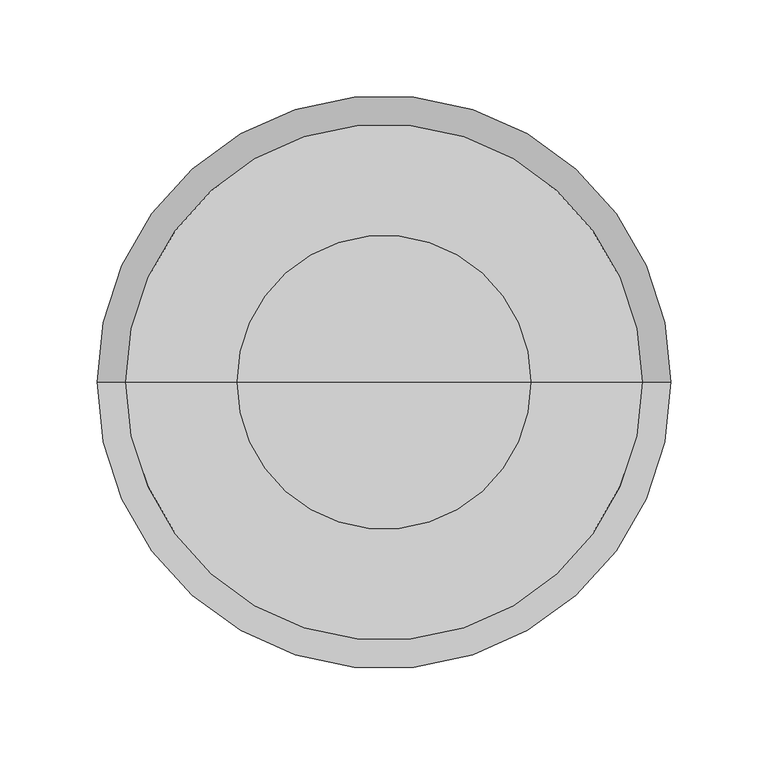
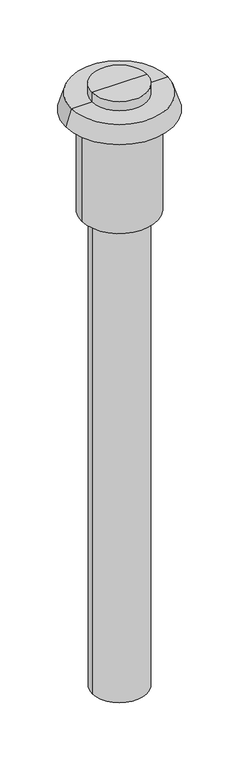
"""IFC4 building model written with IfcOpenShell, lengths in millimetres: air terminal geometry, NLRS_57_AIR_WPB_roof ventilation terminals_M&G : EPS Black, ø150 - L=1750mm."""

import ifcopenshell
import ifcopenshell.guid

model = None  # the IFC model being written
_history = None  # IfcOwnerHistory: only IFC2X3 demands one
_inside = {}  # id of a spatial element -> (the spatial element, [elements in it])
_under = {}  # id of a project, library or spatial element -> (it, [spatial elements below it])
_declared = {}  # id of a project -> (the project, [libraries it declares])
_typed = {}  # id of a type object -> (the type object, [elements of that type])
_made_of = {}  # id of a material, layer set ... -> (it, [elements and type objects made of it])


def new_model(schema):
    """Start an empty IFC model of exactly this schema.

    Asked for "IFC4X3", IfcOpenShell would pick the latest addendum, in which some entities
    have other attributes; the version numbers below select the first issue.
    IFC2X3 requires an IfcOwnerHistory on every rooted entity: one is made here for all.
    """
    global model, _history
    if schema == "IFC4X3":
        model = ifcopenshell.file(schema_version=(4, 3, 0, 0))
    else:
        model = ifcopenshell.file(schema=schema)
    _inside.clear()
    _under.clear()
    _declared.clear()
    _typed.clear()
    _made_of.clear()
    _history = None
    if model.schema == "IFC2X3":
        org = make("IfcOrganization", Name="unknown")
        user = make(
            "IfcPersonAndOrganization",
            ThePerson=make("IfcPerson", FamilyName="unknown"),
            TheOrganization=org,
        )
        app = make(
            "IfcApplication",
            ApplicationDeveloper=org,
            Version="unknown",
            ApplicationFullName="unknown",
            ApplicationIdentifier="unknown",
        )
        _history = make(
            "IfcOwnerHistory",
            OwningUser=user,
            OwningApplication=app,
            ChangeAction="ADDED",
            CreationDate=0,
        )
    return model


def make(cls, **values):
    """One entity of the class cls with the attributes given. An attribute that is None is left unset."""
    return model.create_entity(
        cls, **{name: value for name, value in values.items() if value is not None}
    )


def rooted(cls, **values):
    """An entity with a GlobalId (a new one), such as an element, a storey or a relation."""
    return make(cls, GlobalId=ifcopenshell.guid.new(), OwnerHistory=_history, **values)


def si_unit(unit_type, name, prefix=None):
    """IfcSIUnit, for example si_unit("LENGTHUNIT", "METRE", prefix="MILLI")."""
    return make("IfcSIUnit", UnitType=unit_type, Prefix=prefix, Name=name)


def assignment(units):
    """IfcUnitAssignment: the units of a project."""
    return None if units is None else make("IfcUnitAssignment", Units=units)


def point(xyz):
    """IfcCartesianPoint."""
    return None if xyz is None else make("IfcCartesianPoint", Coordinates=xyz)


def direction(xyz):
    """IfcDirection."""
    return None if xyz is None else make("IfcDirection", DirectionRatios=xyz)


def frame(location, z_axis=None, x_axis=None):
    """IfcAxis2Placement3D, a coordinate frame: its origin and axes. An axis left out is left unset."""
    return make(
        "IfcAxis2Placement3D",
        Location=point(location),
        Axis=direction(z_axis),
        RefDirection=direction(x_axis),
    )


def origin():
    """The frame at (0, 0, 0) with its axes left unset."""
    return frame((0.0, 0.0, 0.0))


def place(relative_to, where):
    """IfcLocalPlacement: puts the frame where relative to a parent placement (None: the world)."""
    return make(
        "IfcLocalPlacement", PlacementRelTo=relative_to, RelativePlacement=where
    )


def context(
    kind, dimensions, precision=None, world=None, true_north=None, identifier=None
):
    """IfcGeometricRepresentationContext, for example the 3D "Model" context."""
    return make(
        "IfcGeometricRepresentationContext",
        ContextIdentifier=identifier,
        ContextType=kind,
        CoordinateSpaceDimension=dimensions,
        Precision=precision,
        WorldCoordinateSystem=world,
        TrueNorth=true_north,
    )


def project(units=None, contexts=None):
    """IfcProject with its units and contexts."""
    return rooted(
        "IfcProject",
        Name="project",
        RepresentationContexts=contexts,
        UnitsInContext=assignment(units),
    )


def spatial(cls, under=None, at=None, **own):
    """A site, building, storey or space (cls), placed at a placement, below another one or the project."""
    s = rooted(cls, ObjectPlacement=at, **own)
    if under is not None:
        _under.setdefault(under.id(), (under, []))[1].append(s)
    return s


def polyline(points):
    """IfcPolyline through the points."""
    return make("IfcPolyline", Points=[point(p) for p in points])


def circle_curve(where, radius):
    """IfcCircle in the frame where."""
    return make("IfcCircle", Position=where, Radius=radius)


def shape(context_of_items, identifier, shape_type, items):
    """IfcShapeRepresentation: the items that make up one representation, for example the "Body"."""
    return make(
        "IfcShapeRepresentation",
        ContextOfItems=context_of_items,
        RepresentationIdentifier=identifier,
        RepresentationType=shape_type,
        Items=items,
    )


def source(mapping_origin, context_of_items, identifier, shape_type, items):
    """IfcRepresentationMap: a shape defined once, which mapped items show again and again."""
    return make(
        "IfcRepresentationMap",
        MappingOrigin=mapping_origin,
        MappedRepresentation=shape(context_of_items, identifier, shape_type, items),
    )


def transform(
    local_origin,
    x_axis=None,
    y_axis=None,
    z_axis=None,
    scale=None,
    scale2=None,
    scale3=None,
    uniform=True,
):
    """IfcCartesianTransformationOperator3D, or its non-uniform kind. x_axis, y_axis, z_axis: its Axis1, 2, 3."""
    if uniform:
        return make(
            "IfcCartesianTransformationOperator3D",
            Axis1=direction(x_axis),
            Axis2=direction(y_axis),
            LocalOrigin=point(local_origin),
            Scale=scale,
            Axis3=direction(z_axis),
        )
    return make(
        "IfcCartesianTransformationOperator3DnonUniform",
        Axis1=direction(x_axis),
        Axis2=direction(y_axis),
        LocalOrigin=point(local_origin),
        Scale=scale,
        Axis3=direction(z_axis),
        Scale2=scale2,
        Scale3=scale3,
    )


def mapped(mapping_source, mapping_target):
    """IfcMappedItem: shows the shape of a source again, moved by a transform."""
    return make(
        "IfcMappedItem", MappingSource=mapping_source, MappingTarget=mapping_target
    )


def made_of(thing, what):
    """Note that an element or type object is made of a material, layer set ...; save() writes the relation."""
    if what is not None:
        _made_of.setdefault(what.id(), (what, []))[1].append(thing)
    return thing


def element(
    cls,
    number,
    at=None,
    inside=None,
    cuts=None,
    type_object=None,
    material=None,
    context=None,
    identifier="Body",
    shape_type=None,
    held_by="IfcProductDefinitionShape",
    body=None,
    shapes=None,
    **own,
):
    """One element of the class cls, such as IfcWall. Its Tag is "e" and its number.

    at: its placement. inside: the storey or other place that contains it. cuts: it is an
    opening in that element (IfcRelVoidsElement). A single representation is given by context,
    identifier, shape_type and body (its items); several are given by shapes. held_by: the class
    of the entity that holds the representations. save() writes the other relations.
    """
    e = rooted(cls, Tag="e%d" % number, ObjectPlacement=at, **own)
    if body is not None:
        shapes = [shape(context, identifier, shape_type, body)]
    if shapes is not None:
        e.Representation = make(held_by, Representations=shapes)
    if inside is not None:
        _inside.setdefault(inside.id(), (inside, []))[1].append(e)
    if cuts is not None:
        rooted(
            "IfcRelVoidsElement", RelatingBuildingElement=cuts, RelatedOpeningElement=e
        )
    if type_object is not None:
        _typed.setdefault(type_object.id(), (type_object, []))[1].append(e)
    return made_of(e, material)


def aggregate(whole, parts):
    """IfcRelAggregates: a whole, such as a stair, and the parts it consists of."""
    return rooted("IfcRelAggregates", RelatingObject=whole, RelatedObjects=parts)


def save(model, path):
    """Write the relations noted so far, then the file.

    IfcRelAggregates (storeys below a building ...), IfcRelContainedInSpatialStructure (elements
    in a storey), IfcRelDefinesByType, IfcRelAssociatesMaterial and IfcRelDeclares: one each for
    every whole, place, type object, material and project.
    """
    for whole, parts in _under.values():
        aggregate(whole, parts)
    for where, things in _inside.values():
        rooted(
            "IfcRelContainedInSpatialStructure",
            RelatedElements=things,
            RelatingStructure=where,
        )
    for kind, things in _typed.values():
        rooted("IfcRelDefinesByType", RelatedObjects=things, RelatingType=kind)
    for what, things in _made_of.values():
        rooted("IfcRelAssociatesMaterial", RelatedObjects=things, RelatingMaterial=what)
    for by, libraries in _declared.values():
        rooted("IfcRelDeclares", RelatingContext=by, RelatedDefinitions=libraries)
    model.write(path)


def plane_surface(at):
    """IfcPlane: the flat surface through the origin of the frame at, square to its z axis."""
    return make("IfcPlane", Position=at)


def cylinder_surface(at, radius):
    """IfcCylindricalSurface: all points at the distance radius from the z axis of the frame at."""
    return make("IfcCylindricalSurface", Position=at, Radius=radius)


def revolved_surface(curve, axis_point, axis_direction):
    """IfcSurfaceOfRevolution: the curve turned about the line through axis_point along axis_direction."""
    return make(
        "IfcSurfaceOfRevolution",
        SweptCurve=make("IfcArbitraryOpenProfileDef", ProfileType="CURVE", Curve=curve),
        AxisPosition=make("IfcAxis1Placement", Location=point(axis_point), Axis=direction(axis_direction)),
    )


def advanced_brep(points, edges, surfaces, faces):
    """IfcAdvancedBrep: a solid bounded by faces that lie on surfaces and meet in shared edges.

    An edge is (start, end): straight between two places in points (the first is 0);
    or (start, end, curve); or (start, end, curve, False) where it runs against its curve.
    A face is (place in surfaces, loops), or (place, loops, False) where it looks against
    its surface's normal. A loop lists edges by number (the first is 1), with a minus sign
    where the edge is run from its end to its start. The first loop is the outer one.
    """
    corners = [point(p) for p in points]
    vertices = [make("IfcVertexPoint", VertexGeometry=c) for c in corners]
    made = []
    for start, end, *more in edges:
        made.append(
            make(
                "IfcEdgeCurve",
                EdgeStart=vertices[start],
                EdgeEnd=vertices[end],
                EdgeGeometry=more[0] if more else make("IfcPolyline", Points=[corners[start], corners[end]]),
                SameSense=more[1] if len(more) > 1 else True,
            )
        )
    hull = []
    for where, loops, *sense in faces:
        bounds = []
        for j, loop in enumerate(loops):
            ring = [make("IfcOrientedEdge", EdgeElement=made[abs(k) - 1], Orientation=k > 0) for k in loop]
            bounds.append(
                make(
                    "IfcFaceOuterBound" if j == 0 else "IfcFaceBound",
                    Bound=make("IfcEdgeLoop", EdgeList=ring),
                    Orientation=True,
                )
            )
        hull.append(make("IfcAdvancedFace", Bounds=bounds, FaceSurface=surfaces[where], SameSense=sense[0] if sense else True))
    return make("IfcAdvancedBrep", Outer=make("IfcClosedShell", CfsFaces=hull))


def air_terminal_4465b07e(model_context):
    return source(origin(), model_context, "Body", "AdvancedBrep", [
        advanced_brep(
        [(75.7, 0.0, 365.0), (-75.7, 0.0, 365.0), (0.0, 0.0, 365.0), (75.7, 0.0, 338.0), (-75.7, 0.0, 338.0), (0.0, 0.0, 338.0)],
        [
            (0, 1, circle_curve(frame((0.0, 0.0, 365.0), z_axis=(0.0, 0.0, 1.0), x_axis=(-1.0, 0.0, 0.0)), 75.7)),
            (1, 2),
            (2, 0),
            (1, 0, circle_curve(frame((0.0, 0.0, 365.0), z_axis=(0.0, 0.0, 1.0), x_axis=(-1.0, 0.0, 0.0)), 75.7)),
            (3, 4, circle_curve(frame((0.0, 0.0, 338.0), z_axis=(0.0, 0.0, 1.0), x_axis=(-1.0, 0.0, 0.0)), 75.7)),
            (4, 1),
            (0, 3),
            (4, 3, circle_curve(frame((0.0, 0.0, 338.0), z_axis=(0.0, 0.0, 1.0), x_axis=(-1.0, 0.0, 0.0)), 75.7)),
            (5, 4),
            (3, 5),
        ],
        [
            plane_surface(frame((0.0, 0.0, 365.0), z_axis=(0.0, 0.0, 1.0), x_axis=(-1.0, 0.0, 0.0))),
            cylinder_surface(frame((0.0, 0.0, 2068.3150031), z_axis=(0.0, 0.0, -1.0), x_axis=(-1.0, 0.0, 0.0)), 75.7),
            plane_surface(frame((0.0, 0.0, 338.0), z_axis=(0.0, 0.0, -1.0), x_axis=(-1.0, 0.0, 0.0))),
        ],
        [
            (0, [[1, 2, 3]]),
            (0, [[4, -3, -2]]),
            (1, [[5, 6, -1, 7]]),
            (1, [[8, -7, -4, -6]]),
            (2, [[9, -5, 10]]),
            (2, [[-10, -8, -9]]),
        ],
    ),
        advanced_brep(
        [(103.2, 0.0, 290.0), (-103.2, 0.0, 290.0), (0.0, 0.0, 290.0), (103.2, 0.0, 0.0), (-103.2, 0.0, 0.0), (0.0, 0.0, 0.0)],
        [
            (0, 1, circle_curve(frame((0.0, 0.0, 290.0), z_axis=(0.0, 0.0, 1.0), x_axis=(-1.0, 0.0, 0.0)), 103.2)),
            (1, 2),
            (2, 0),
            (1, 0, circle_curve(frame((0.0, 0.0, 290.0), z_axis=(0.0, 0.0, 1.0), x_axis=(-1.0, 0.0, 0.0)), 103.2)),
            (3, 4, circle_curve(frame((0.0, 0.0, 0.0), z_axis=(0.0, 0.0, 1.0), x_axis=(-1.0, 0.0, 0.0)), 103.2)),
            (4, 1),
            (0, 3),
            (4, 3, circle_curve(frame((0.0, 0.0, 0.0), z_axis=(0.0, 0.0, 1.0), x_axis=(-1.0, 0.0, 0.0)), 103.2)),
            (5, 4),
            (3, 5),
        ],
        [
            plane_surface(frame((0.0, 0.0, 290.0), z_axis=(0.0, 0.0, 1.0), x_axis=(-1.0, 0.0, 0.0))),
            cylinder_surface(frame((0.0, 0.0, 2112.3150031), z_axis=(0.0, 0.0, -1.0), x_axis=(-1.0, 0.0, 0.0)), 103.2),
            plane_surface(frame((0.0, 0.0, 0.0), z_axis=(0.0, 0.0, -1.0), x_axis=(-1.0, 0.0, 0.0))),
        ],
        [
            (0, [[1, 2, 3]]),
            (0, [[4, -3, -2]]),
            (1, [[5, 6, -1, 7]]),
            (1, [[8, -7, -4, -6]]),
            (2, [[9, -5, 10]]),
            (2, [[-10, -8, -9]]),
        ],
    ),
        advanced_brep(
        [(133.0, 0.0, 338.0), (-133.0, 0.0, 338.0), (0.0, 0.0, 338.0), (147.75, 0.0, 290.0), (-147.75, 0.0, 290.0), (0.0, 0.0, 290.0)],
        [
            (0, 1, circle_curve(frame((0.0, 0.0, 338.0), z_axis=(0.0, 0.0, 1.0), x_axis=(-1.0, 0.0, 0.0)), 133.0)),
            (1, 2),
            (2, 0),
            (1, 0, circle_curve(frame((0.0, 0.0, 338.0), z_axis=(0.0, 0.0, 1.0), x_axis=(-1.0, 0.0, 0.0)), 133.0)),
            (3, 4, circle_curve(frame((0.0, 0.0, 290.0), z_axis=(0.0, 0.0, 1.0), x_axis=(-1.0, 0.0, 0.0)), 147.75)),
            (4, 1),
            (0, 3),
            (4, 3, circle_curve(frame((0.0, 0.0, 290.0), z_axis=(0.0, 0.0, 1.0), x_axis=(-1.0, 0.0, 0.0)), 147.75)),
            (5, 4),
            (3, 5),
        ],
        [
            plane_surface(frame((0.0, 0.0, 338.0), z_axis=(0.0, 0.0, 1.0), x_axis=(-1.0, 0.0, 0.0))),
            revolved_surface(polyline([(-133.0, 0.0, 338.0), (-147.75, 0.0, 290.0)]), (0.0, 0.0, 2058.3150031), (0.0, 0.0, -1.0)),
            plane_surface(frame((0.0, 0.0, 290.0), z_axis=(0.0, 0.0, -1.0), x_axis=(-1.0, 0.0, 0.0))),
        ],
        [
            (0, [[1, 2, 3]]),
            (0, [[4, -3, -2]]),
            (1, [[5, 6, -1, 7]]),
            (1, [[8, -7, -4, -6]]),
            (2, [[9, -5, 10]]),
            (2, [[-10, -8, -9]]),
        ],
    ),
        advanced_brep(
        [(75.0, 0.0, -1385.0), (-75.0, 0.0, -1385.0), (-75.0, 0.0, 0.0), (75.0, 0.0, 0.0), (0.0, 0.0, -1385.0), (0.0, 0.0, 0.0)],
        [
            (0, 1, circle_curve(frame((0.0, 0.0, -1385.0), z_axis=(0.0, 0.0, 1.0), x_axis=(-1.0, 0.0, 0.0)), 75.0)),
            (1, 2),
            (2, 3, circle_curve(frame((0.0, 0.0, 0.0), z_axis=(0.0, 0.0, -1.0), x_axis=(-1.0, 0.0, 0.0)), 75.0)),
            (3, 0),
            (1, 0, circle_curve(frame((0.0, 0.0, -1385.0), z_axis=(0.0, 0.0, 1.0), x_axis=(-1.0, 0.0, 0.0)), 75.0)),
            (3, 2, circle_curve(frame((0.0, 0.0, 0.0), z_axis=(0.0, 0.0, -1.0), x_axis=(-1.0, 0.0, 0.0)), 75.0)),
            (4, 1),
            (0, 4),
            (2, 5),
            (5, 3),
        ],
        [
            cylinder_surface(frame((0.0, 0.0, 2058.3150031), z_axis=(0.0, 0.0, -1.0), x_axis=(-1.0, 0.0, 0.0)), 75.0),
            plane_surface(frame((0.0, 0.0, -1385.0), z_axis=(0.0, 0.0, -1.0), x_axis=(-1.0, 0.0, 0.0))),
            plane_surface(frame((0.0, 0.0, 0.0), z_axis=(0.0, 0.0, 1.0), x_axis=(-1.0, 0.0, 0.0))),
        ],
        [
            (0, [[1, 2, 3, 4]]),
            (0, [[5, -4, 6, -2]]),
            (1, [[7, -1, 8]]),
            (1, [[-8, -5, -7]]),
            (2, [[-3, 9, 10]]),
            (2, [[-6, -10, -9]]),
        ],
    ),
    ])


if __name__ == "__main__":
    model = new_model("IFC4")
    model_context = context("Model", 3, world=origin())
    ifc_project = project(units=[si_unit("LENGTHUNIT", "METRE", prefix="MILLI")], contexts=[model_context])
    site = spatial("IfcSite", under=ifc_project)
    building = spatial("IfcBuilding", under=site)
    placement = place(None, origin())
    air_terminal_shape = air_terminal_4465b07e(model_context)
    element("IfcAirTerminal", 1, ObjectType="NLRS_57_AIR_WPB_roof ventilation terminals_M&G : EPS Black, ø150 - L=1750mm", at=placement, inside=building, context=model_context, shape_type="MappedRepresentation", body=[
        mapped(air_terminal_shape, transform((0.0, 0.0, 0.0), x_axis=(1.0, 0.0, 0.0), y_axis=(0.0, 1.0, 0.0), z_axis=(0.0, 0.0, 1.0))),
    ])
    save(model, "model.ifc")
